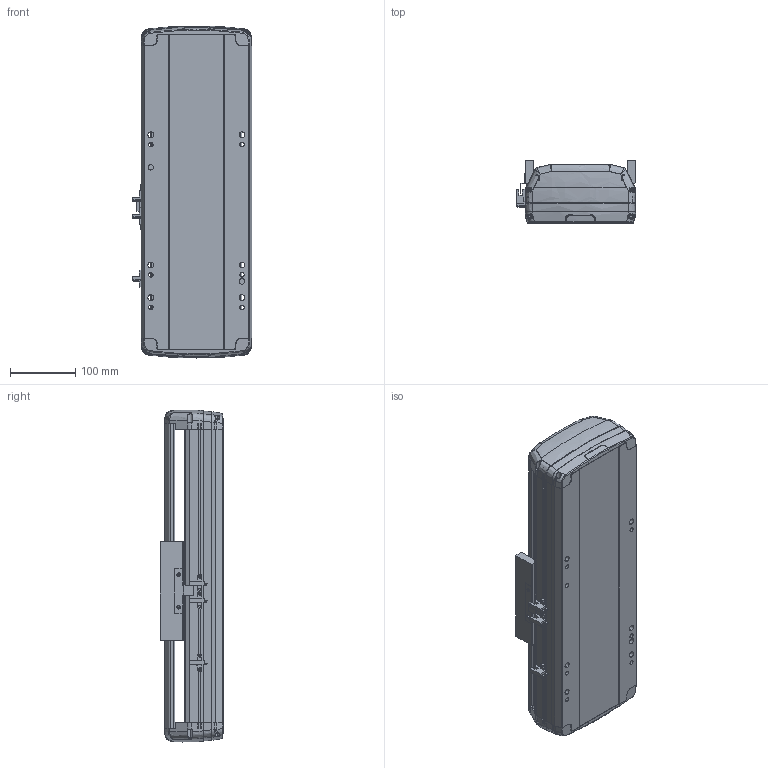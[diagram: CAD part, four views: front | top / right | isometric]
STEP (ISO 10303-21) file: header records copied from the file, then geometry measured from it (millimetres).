
FILE_DESCRIPTION (( 'STEP AP214' ), '1' );
FILE_NAME ('RTH17-XX-100-B-M40-C4.STEP', '2025-10-24T07:58:48', ( '' ), ( '' ), 'SwSTEP 2.0', 'SolidWorks 2018', '' );
FILE_SCHEMA (( 'AUTOMOTIVE_DESIGN' ));
Length unit declared in the file: millimetre
Products named in the file (7): N_RTH17-M-007上盖^RTH17-XX-XX-B-M40-C4（方程式）; RTH17-XX-100-B-M40-C4; N_RTH17-M-011底座^RTH17-XX-XX-B-M40-C4（方程式）; N_RTH-L-012 感应片(外置)^RTH17-XX-XX-B-M40-C4（方程式）; N_RTH17-GY-001P^RTH17-XX-XX-B-M40-C4（方程式）; N_RTH17-E-004丝杆螺母连接座^RTH17-XX-XX-B-M40-C4（方程式）; N_OMRON EE-SX672 換覜ん^RTH17-XX-XX-B-M40-C4ㄗ源最宒ㄘ
Assembly tree (9 placements, depth 2):
  RTH17-XX-100-B-M40-C4
    N_RTH17-M-011底座^RTH17-XX-XX-B-M40-C4（方程式）
    N_RTH17-M-007上盖^RTH17-XX-XX-B-M40-C4（方程式）
    N_OMRON EE-SX672 換覜ん^RTH17-XX-XX-B-M40-C4ㄗ源最宒ㄘ  x3
    N_RTH-L-012 感应片(外置)^RTH17-XX-XX-B-M40-C4（方程式）
    N_RTH17-E-004丝杆螺母连接座^RTH17-XX-XX-B-M40-C4（方程式）
    N_RTH17-GY-001P^RTH17-XX-XX-B-M40-C4（方程式）  x2
Bounding box: 183.5 x 97 x 510.04 mm (x, y, z)
Volume: 4020222.8 mm3; surface area: 628507.8 mm2
Topology: 7 solids, 11 shells, 1688 faces, 4718 edges, 3062 vertices
Faces by surface type: plane 805, bspline 420, cylinder 417, cone 28, torus 18
Entity records: 38742 total; most frequent: CARTESIAN_POINT 16281, ORIENTED_EDGE 4940, DIRECTION 3886, EDGE_CURVE 2474, VERTEX_POINT 1616, LINE 1382, VECTOR 1382, AXIS2_PLACEMENT_3D 1252
